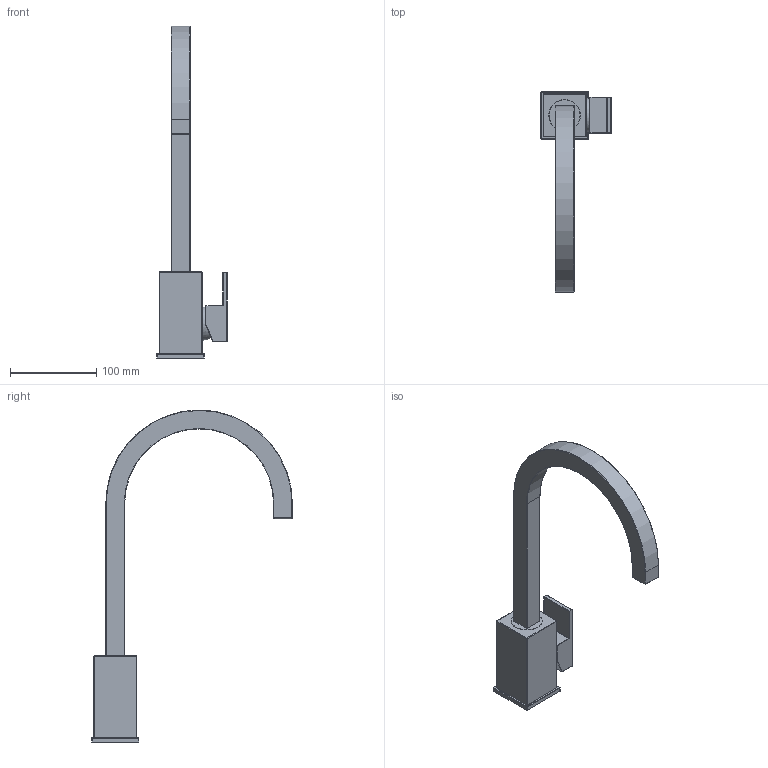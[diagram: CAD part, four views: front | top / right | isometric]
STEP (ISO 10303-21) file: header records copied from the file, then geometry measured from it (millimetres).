
FILE_DESCRIPTION(('STEP AP214'), '1');
FILE_NAME('84CR572RSKM', '', ('UNSPECIFIED'), ('UNSPECIFIED'), 'ASCON STEP Converter 1.6', 'ASCON Math Kernel', '');
FILE_SCHEMA(('AUTOMOTIVE_DESIGN { 1 0 10303 214 3 1 1}'));
Length unit declared in the file: millimetre
Bounding box: 81.5 x 233.5 x 386 mm (x, y, z)
Volume: 560523.8 mm3; surface area: 82589.3 mm2
Topology: 2 solids, 2 shells, 110 faces, 248 edges, 124 vertices
Faces by surface type: cylinder 52, plane 29, sphere 17, torus 6, bspline 6
Full cylindrical faces by diameter (mm): 36 x1, 36.6 x1
Entity records: 4454 total; most frequent: CARTESIAN_POINT 1224, DIRECTION 521, ORIENTED_EDGE 444, EDGE_CURVE 222, AXIS2_PLACEMENT_3D 204, VERTEX_POINT 123, EDGE_LOOP 117, LINE 113
